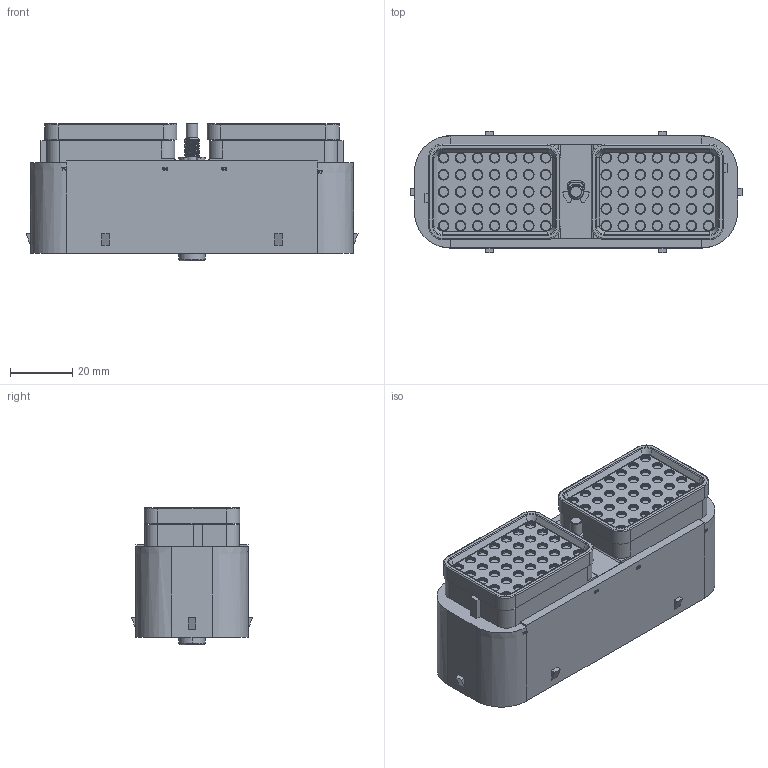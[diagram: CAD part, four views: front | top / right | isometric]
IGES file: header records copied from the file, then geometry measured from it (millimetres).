
Start section:  PTC IGES file: c-drc16-70sae-p013-99-3d.igs
Global section: file name: c-drc16-70sae-p013-99-3d.igs; native system: Pro/ENGINEER by Parametric Technology Corporation; preprocessor: 2011490; author: workeradm; organization: Unknown; units: millimetre
Bounding box: 106.88 x 38.99 x 44.32 mm (x, y, z)
Surface area: 21901.4 mm2 (no closed solid volume)
Topology: 0 solids, 0 shells, 1928 faces, 8822 edges, 8801 vertices
Faces by surface type: revolution 1117, bspline 811
